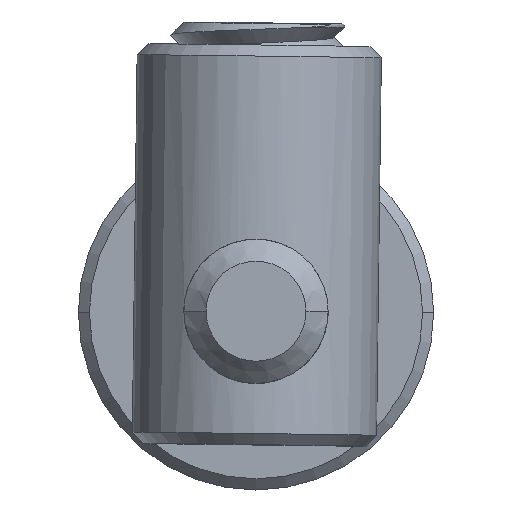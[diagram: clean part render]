
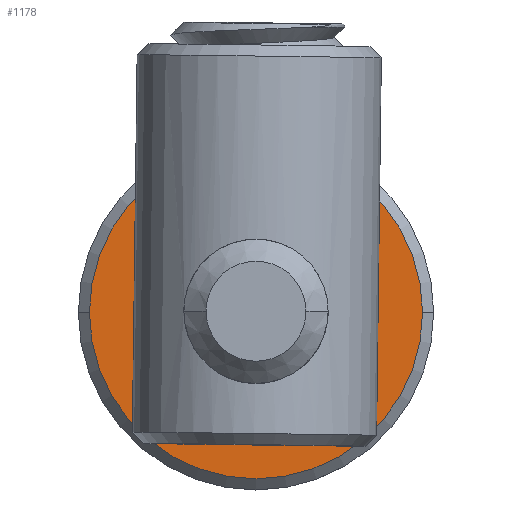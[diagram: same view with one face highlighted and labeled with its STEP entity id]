
A CAD part, top view. The second image highlights one B-rep face of the part: STEP entity #1178.
In plain terms, the highlighted planar face has unit normal (0, 0, 1).
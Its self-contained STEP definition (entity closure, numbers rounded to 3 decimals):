
#76 = CARTESIAN_POINT ( 'NONE',  ( 7.5, 0., 5. ) ) ;
#130 = ORIENTED_EDGE ( 'NONE', *, *, #4285, .T. ) ;
#185 = CARTESIAN_POINT ( 'NONE',  ( -7.5, 0., 5. ) ) ;
#245 = DIRECTION ( 'NONE',  ( 1., 0., 0. ) ) ;
#321 = CIRCLE ( 'NONE', #7173, 3.5 ) ;
#471 = CARTESIAN_POINT ( 'NONE',  ( 0., 0., 5. ) ) ;
#571 = CARTESIAN_POINT ( 'NONE',  ( 0., 0., 5. ) ) ;
#1050 = DIRECTION ( 'NONE',  ( 1., 0., 0. ) ) ;
#1151 = DIRECTION ( 'NONE',  ( 1., 0., 0. ) ) ;
#1174 = EDGE_LOOP ( 'NONE', ( #2561, #130 ) ) ;
#1178 = ADVANCED_FACE ( 'NONE', ( #2174, #5259 ), #3057, .T. ) ;
#1184 = ORIENTED_EDGE ( 'NONE', *, *, #6668, .F. ) ;
#1350 = AXIS2_PLACEMENT_3D ( 'NONE', #6001, #2522, #6570 ) ;
#1895 = DIRECTION ( 'NONE',  ( 0., 0., 1. ) ) ;
#2116 = CIRCLE ( 'NONE', #1350, 7.5 ) ;
#2174 = FACE_OUTER_BOUND ( 'NONE', #1174, .T. ) ;
#2260 = CARTESIAN_POINT ( 'NONE',  ( -3.5, 0., 5. ) ) ;
#2276 = VERTEX_POINT ( 'NONE', #5070 ) ;
#2303 = AXIS2_PLACEMENT_3D ( 'NONE', #5955, #1895, #3636 ) ;
#2522 = DIRECTION ( 'NONE',  ( 0., 0., 1. ) ) ;
#2561 = ORIENTED_EDGE ( 'NONE', *, *, #3574, .T. ) ;
#2691 = ORIENTED_EDGE ( 'NONE', *, *, #3280, .F. ) ;
#3057 = PLANE ( 'NONE',  #2303 ) ;
#3280 = EDGE_CURVE ( 'NONE', #2276, #6079, #4756, .T. ) ;
#3409 = VERTEX_POINT ( 'NONE', #76 ) ;
#3574 = EDGE_CURVE ( 'NONE', #6229, #3409, #7260, .T. ) ;
#3636 = DIRECTION ( 'NONE',  ( 1., 0., 0. ) ) ;
#3683 = DIRECTION ( 'NONE',  ( 0., 0., 1. ) ) ;
#4285 = EDGE_CURVE ( 'NONE', #3409, #6229, #2116, .T. ) ;
#4502 = DIRECTION ( 'NONE',  ( 0., 0., 1. ) ) ;
#4600 = DIRECTION ( 'NONE',  ( 0., 0., 1. ) ) ;
#4734 = AXIS2_PLACEMENT_3D ( 'NONE', #571, #4600, #1151 ) ;
#4756 = CIRCLE ( 'NONE', #4734, 3.5 ) ;
#5070 = CARTESIAN_POINT ( 'NONE',  ( 3.5, 0., 5. ) ) ;
#5259 = FACE_BOUND ( 'NONE', #6680, .T. ) ;
#5955 = CARTESIAN_POINT ( 'NONE',  ( 0., 0., 5. ) ) ;
#6001 = CARTESIAN_POINT ( 'NONE',  ( 0., 0., 5. ) ) ;
#6079 = VERTEX_POINT ( 'NONE', #2260 ) ;
#6229 = VERTEX_POINT ( 'NONE', #185 ) ;
#6570 = DIRECTION ( 'NONE',  ( 1., 0., 0. ) ) ;
#6662 = AXIS2_PLACEMENT_3D ( 'NONE', #471, #4502, #1050 ) ;
#6668 = EDGE_CURVE ( 'NONE', #6079, #2276, #321, .T. ) ;
#6680 = EDGE_LOOP ( 'NONE', ( #1184, #2691 ) ) ;
#7149 = CARTESIAN_POINT ( 'NONE',  ( 0., 0., 5. ) ) ;
#7173 = AXIS2_PLACEMENT_3D ( 'NONE', #7149, #3683, #245 ) ;
#7260 = CIRCLE ( 'NONE', #6662, 7.5 ) ;
